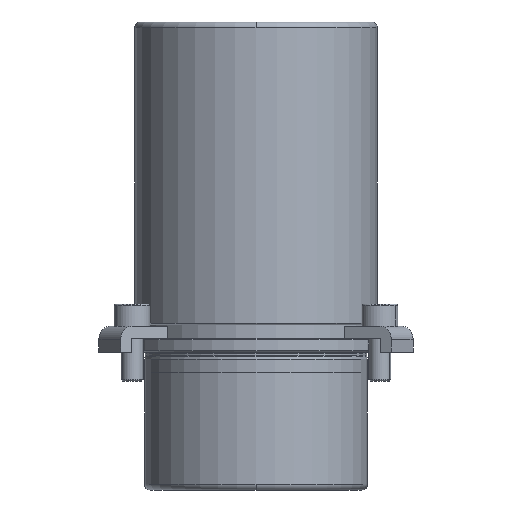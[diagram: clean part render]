
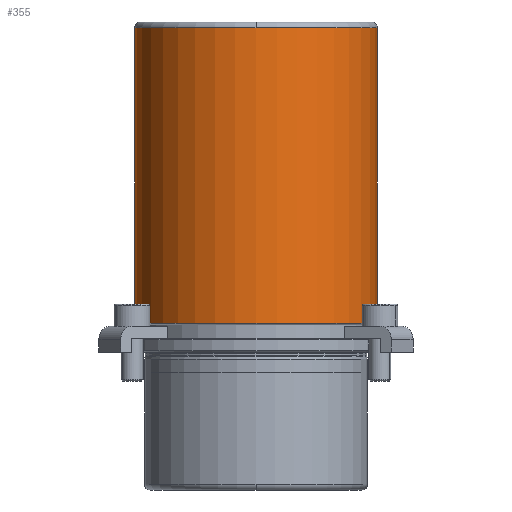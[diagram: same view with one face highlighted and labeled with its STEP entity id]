
A CAD part, front view. The second image highlights one B-rep face of the part: STEP entity #355.
In plain terms, the highlighted cylindrical face has radius 44 mm (diameter 88 mm), a partial arc.
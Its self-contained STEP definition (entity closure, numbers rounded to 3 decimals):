
#269=CARTESIAN_POINT('',(0.0,-44.,118.));
#270=VERTEX_POINT('',#269);
#296=CARTESIAN_POINT('',(-44.0,0.,118.));
#297=VERTEX_POINT('',#296);
#305=CARTESIAN_POINT('',(0.0,0.,118.));
#306=DIRECTION('',(0.0,0.0,1.0));
#307=DIRECTION('',(1.0,0.0,0.0));
#308=AXIS2_PLACEMENT_3D('',#305,#306,#307);
#309=CIRCLE('',#308,44.0);
#310=EDGE_CURVE('',#297,#270,#309,.T.);
#315=CARTESIAN_POINT('',(0.0,0.,64.25));
#316=DIRECTION('',(0.0,0.,1.0));
#317=DIRECTION('',(1.0,0.0,0.0));
#318=AXIS2_PLACEMENT_3D('',#315,#316,#317);
#319=CYLINDRICAL_SURFACE('',#318,44.0);
#320=CARTESIAN_POINT('',(44.0,0.,118.));
#321=VERTEX_POINT('',#320);
#322=CARTESIAN_POINT('',(44.0,0.,10.5));
#323=VERTEX_POINT('',#322);
#324=CARTESIAN_POINT('',(44.0,0.,118.));
#325=DIRECTION('',(0.0,0.0,-1.0));
#326=VECTOR('',#325,107.5);
#327=LINE('',#324,#326);
#328=EDGE_CURVE('',#321,#323,#327,.T.);
#329=ORIENTED_EDGE('',*,*,#328,.F.);
#330=CARTESIAN_POINT('',(0.0,0.,118.));
#331=DIRECTION('',(0.0,0.0,1.0));
#332=DIRECTION('',(1.0,0.0,0.0));
#333=AXIS2_PLACEMENT_3D('',#330,#331,#332);
#334=CIRCLE('',#333,44.0);
#335=EDGE_CURVE('',#270,#321,#334,.T.);
#336=ORIENTED_EDGE('',*,*,#335,.F.);
#337=ORIENTED_EDGE('',*,*,#310,.F.);
#338=CARTESIAN_POINT('',(-44.0,0.,10.5));
#339=VERTEX_POINT('',#338);
#340=CARTESIAN_POINT('',(-44.0,0.,118.));
#341=DIRECTION('',(0.0,0.0,-1.0));
#342=VECTOR('',#341,107.5);
#343=LINE('',#340,#342);
#344=EDGE_CURVE('',#297,#339,#343,.T.);
#345=ORIENTED_EDGE('',*,*,#344,.T.);
#346=CARTESIAN_POINT('',(0.0,0.,10.5));
#347=DIRECTION('',(0.0,0.0,1.0));
#348=DIRECTION('',(1.0,0.0,0.0));
#349=AXIS2_PLACEMENT_3D('',#346,#347,#348);
#350=CIRCLE('',#349,44.0);
#351=EDGE_CURVE('',#339,#323,#350,.T.);
#352=ORIENTED_EDGE('',*,*,#351,.T.);
#353=EDGE_LOOP('',(#329,#336,#337,#345,#352));
#354=FACE_OUTER_BOUND('',#353,.T.);
#355=ADVANCED_FACE('',(#354),#319,.T.);
